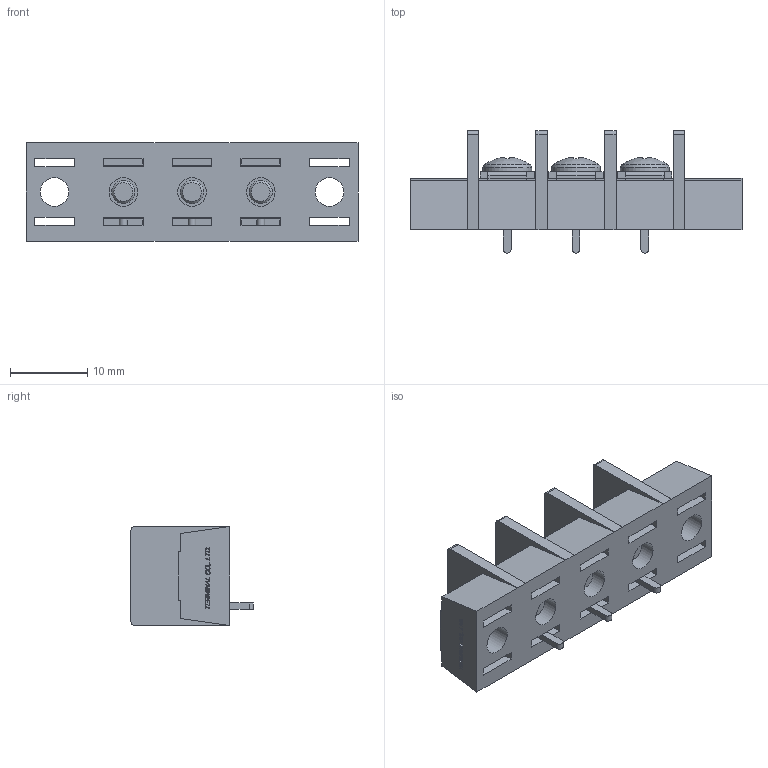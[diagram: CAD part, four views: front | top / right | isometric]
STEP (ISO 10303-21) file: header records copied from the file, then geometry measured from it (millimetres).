
FILE_DESCRIPTION(/* description */ ('Alibre Inc.'),/* implementation_level */ '2;1');
FILE_NAME(/* name */ 'export0',/* time_stamp */ '2015-10-20T19:48:16+09:00',/* author */ (''),/* organization */ (''),/* preprocessor_version */ 'ST-DEVELOPER v14',/* originating_system */ 'Alibre',/* authorisation */ '');
FILE_SCHEMA (('CONFIG_CONTROL_DESIGN'));
Length unit declared in the file: centimetre
Products named in the file (1): ID_1
Bounding box: 42.96 x 15.8 x 12.8 mm (x, y, z)
Volume: 3532.9 mm3; surface area: 4378.6 mm2
Topology: 1 solids, 52 shells, 1255 faces, 3253 edges, 2156 vertices
Faces by surface type: plane 935, bspline 260, cylinder 36, cone 15, torus 6, sphere 3
Full cylindrical faces by diameter (mm): 3 x6, 3.7 x5, 4.6 x5, 6.3 x3
Entity records: 36700 total; most frequent: CARTESIAN_POINT 8960, ORIENTED_EDGE 6428, DIRECTION 3780, EDGE_CURVE 3214, VECTOR 2497, LINE 2497, VERTEX_POINT 2145, EDGE_LOOP 1391
